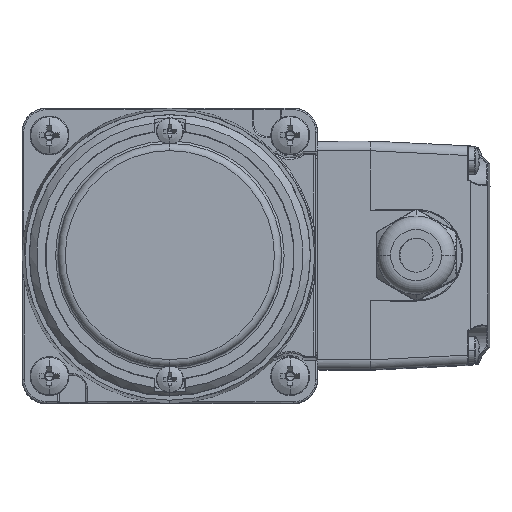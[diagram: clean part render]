
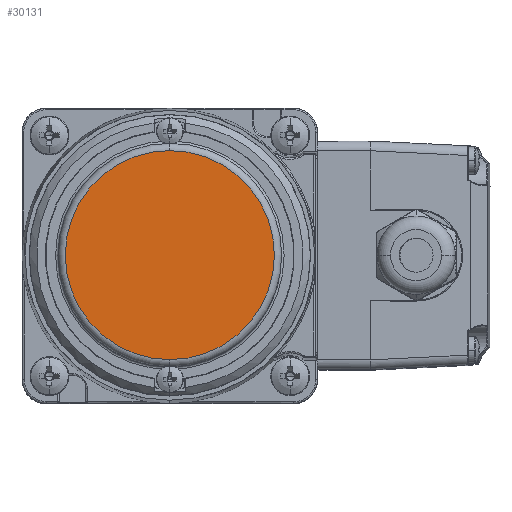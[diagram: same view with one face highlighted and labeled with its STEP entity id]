
A CAD part, top view. The second image highlights one B-rep face of the part: STEP entity #30131.
In plain terms, the highlighted planar face has unit normal (0, 0, 1) as drawn and (-1, 0, 0) by its records, which use the part's own axes.
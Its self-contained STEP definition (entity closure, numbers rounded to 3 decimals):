
#1713 = DIRECTION ( 'NONE',  ( 1., 0., 0. ) ) ;
#3632 = AXIS2_PLACEMENT_3D ( 'NONE', #14230, #24373, #11320 ) ;
#4748 = CARTESIAN_POINT ( 'NONE',  ( -87.75, 0., -21.5 ) ) ;
#5007 = EDGE_CURVE ( 'NONE', #33947, #14657, #29974, .T. ) ;
#11112 = FACE_OUTER_BOUND ( 'NONE', #16586, .T. ) ;
#11320 = DIRECTION ( 'NONE',  ( 0., 0., 1. ) ) ;
#14230 = CARTESIAN_POINT ( 'NONE',  ( -87.75, 0., 0. ) ) ;
#14284 = EDGE_CURVE ( 'NONE', #14657, #33947, #34392, .T. ) ;
#14657 = VERTEX_POINT ( 'NONE', #20869 ) ;
#16586 = EDGE_LOOP ( 'NONE', ( #37721, #30637 ) ) ;
#17048 = DIRECTION ( 'NONE',  ( 1., 0., 0. ) ) ;
#17075 = DIRECTION ( 'NONE',  ( 0., 0., -1. ) ) ;
#19986 = CARTESIAN_POINT ( 'NONE',  ( -87.75, 0., 0. ) ) ;
#20165 = CARTESIAN_POINT ( 'NONE',  ( -87.75, 0., 0. ) ) ;
#20869 = CARTESIAN_POINT ( 'NONE',  ( -87.75, 0., 21.5 ) ) ;
#21268 = PLANE ( 'NONE',  #3632 ) ;
#24373 = DIRECTION ( 'NONE',  ( -1., 0., 0. ) ) ;
#24412 = AXIS2_PLACEMENT_3D ( 'NONE', #20165, #17048, #26182 ) ;
#26182 = DIRECTION ( 'NONE',  ( 0., 0., 1. ) ) ;
#29974 = CIRCLE ( 'NONE', #35316, 21.5 ) ;
#30131 = ADVANCED_FACE ( 'NONE', ( #11112 ), #21268, .T. ) ;
#30637 = ORIENTED_EDGE ( 'NONE', *, *, #14284, .F. ) ;
#33947 = VERTEX_POINT ( 'NONE', #4748 ) ;
#34392 = CIRCLE ( 'NONE', #24412, 21.5 ) ;
#35316 = AXIS2_PLACEMENT_3D ( 'NONE', #19986, #1713, #17075 ) ;
#37721 = ORIENTED_EDGE ( 'NONE', *, *, #5007, .F. ) ;
